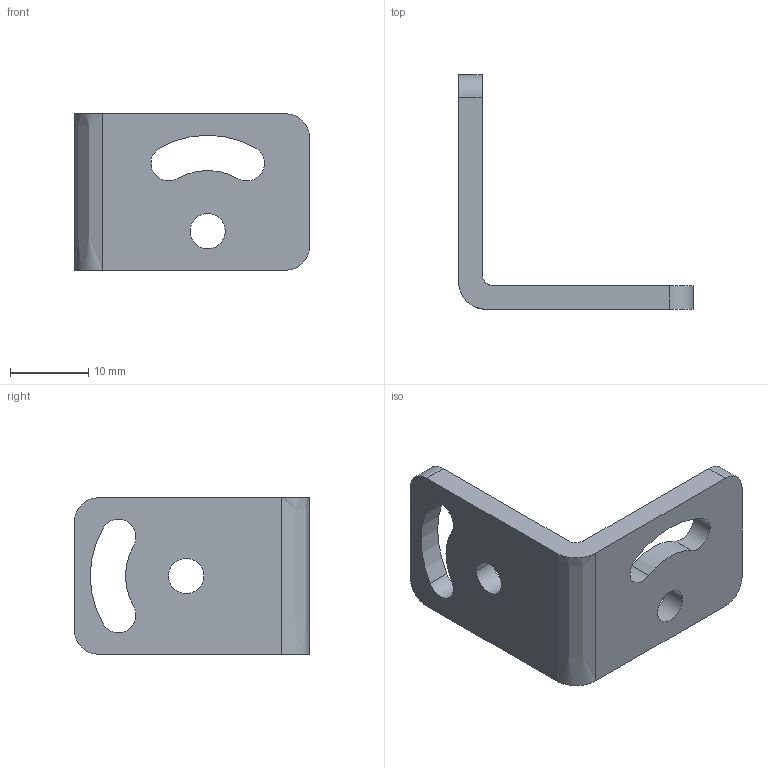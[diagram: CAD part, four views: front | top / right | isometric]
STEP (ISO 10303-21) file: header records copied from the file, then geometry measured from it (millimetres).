
FILE_DESCRIPTION((''),'2;1');
FILE_NAME('15300482_MA45.stp','2009-09-28T10:55:44',(''),(''),'Mechanical Desktop 2009','Mechanical Desktop 2009',', , ');
FILE_SCHEMA(('CONFIG_CONTROL_DESIGN'));
Length unit declared in the file: millimetre
Products named in the file (1): ZEICHNUNG3
Bounding box: 30 x 30 x 20 mm (x, y, z)
Volume: 2878.2 mm3; surface area: 2643.7 mm2
Topology: 1 solids, 1 shells, 26 faces, 72 edges, 48 vertices
Faces by surface type: cylinder 16, plane 8, bspline 2
Entity records: 1181 total; most frequent: CARTESIAN_POINT 393, DIRECTION 146, ORIENTED_EDGE 144, EDGE_CURVE 72, AXIS2_PLACEMENT_3D 57, VERTEX_POINT 48, EDGE_LOOP 34, VECTOR 32
